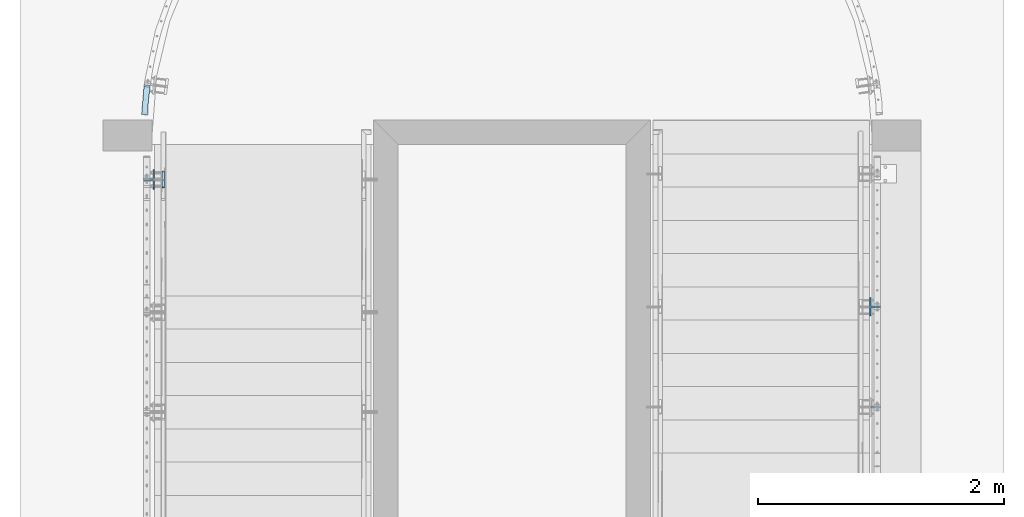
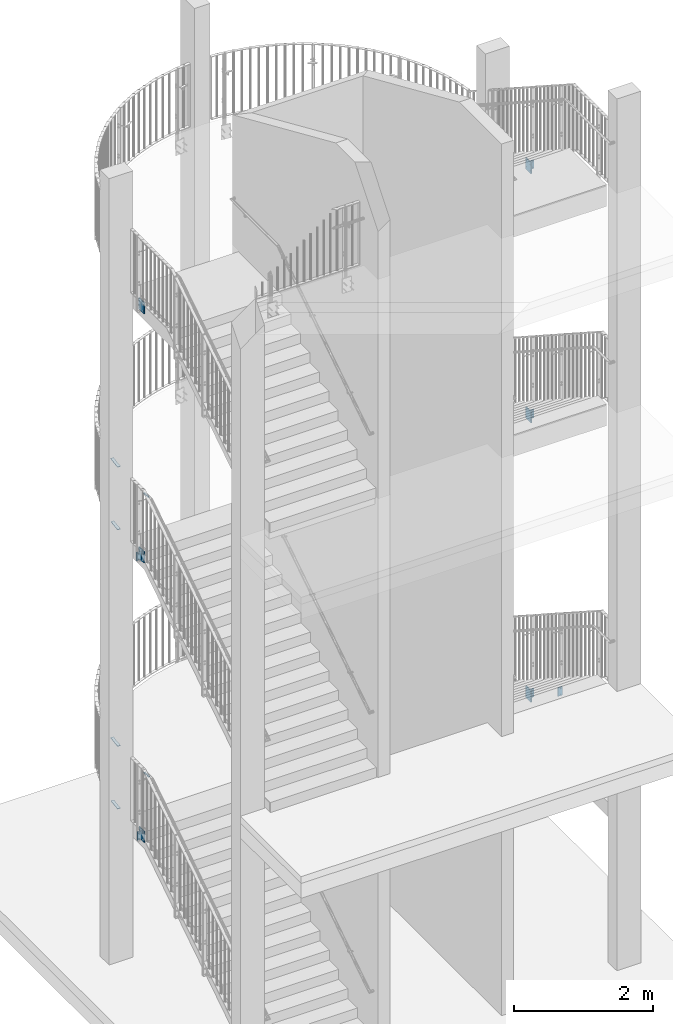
# One storey, part 111 of 296: 18 plates, 46 openings.
"""IFC2X3 building model written with IfcOpenShell, lengths in millimetres."""

from ifc_helpers import new_model, entity, si_unit, converted_unit, point, frame, frame_2d, origin, origin_with_axes, origin_2d_with_axis, place, context, project, spatial, polyline, circle_curve, line_curve, trimmed, segment, composite_curve, circle, outline, extrude, material, layer, layer_set, element, save


model = new_model("IFC2X3")

# Units and contexts
model_context = context("Model", 3, precision=1e-09, world=origin_with_axes())
ifc_project = project(units=[si_unit("LENGTHUNIT", "METRE", prefix="MILLI"), si_unit("AREAUNIT", "SQUARE_METRE"), si_unit("VOLUMEUNIT", "CUBIC_METRE"), converted_unit("PLANEANGLEUNIT", "DEGREE", entity("IfcPlaneAngleMeasure", 0.01745329), si_unit("PLANEANGLEUNIT", "RADIAN"), dimensions=[0, 0, 0, 0, 0, 0, 0])], contexts=[model_context])

# Site, building, storey
site_placement = place(None, origin_with_axes())
site = spatial("IfcSite", under=ifc_project, at=site_placement, Name="TZD-S?d | Treppenhausgel?nder", CompositionType="ELEMENT")
building_placement = place(site_placement, origin_with_axes())
building = spatial("IfcBuilding", under=site, at=building_placement, Name="Struktur 1", CompositionType="ELEMENT")
storey_placement = place(building_placement, origin_with_axes())
storey = spatial("IfcBuildingStorey", under=building, at=storey_placement, Name="Default Storey", CompositionType="ELEMENT", Elevation=0.0)

# Plate, openings
ifc_material = material(Name="S235JR")
ifc_layer_1 = layer(ifc_material, 15.0)
ifc_layer_set_1 = layer_set([ifc_layer_1], Name="S235JR")
plate_1_placement = place(None, frame((5829.999, -1520.0, 12614.999), z_axis=(-1.0, 0.0, 0.0), x_axis=(0.0, -1.0, 0.0)))
plate_1 = element("IfcPlate", 1, at=plate_1_placement, inside=storey, material=ifc_layer_set_1, Name="Girder", ObjectType="Girder", context=model_context, shape_type="SweptSolid", body=[
    extrude(outline(polyline([(-75.0, -100.0), (75.0, -100.0), (75.0, 100.0), (-75.0, 100.0), (-75.0, -100.0)])), origin_with_axes(), (0.0, 0.0, -1.0), 15.0),
])
opening_1_placement = place(plate_1_placement, frame((47.999, 55.0, 0.5), z_axis=(0.0, 0.0, 1.0), x_axis=(1.0, 0.0, 0.0)))
element("IfcOpeningElement", 2, at=opening_1_placement, cuts=plate_1, ObjectType="Opening", context=model_context, shape_type="SweptSolid", body=[
    extrude(circle(Radius=7.001, at=frame_2d((7.001, 0.0), x_axis=(1.0, 0.0))), origin(), (0.0, 0.0, -1.0), 16.0),
])
opening_2_placement = place(plate_1_placement, frame((-62.001, 55.0, 0.5), z_axis=(0.0, 0.0, 1.0), x_axis=(1.0, 0.0, 0.0)))
element("IfcOpeningElement", 3, at=opening_2_placement, cuts=plate_1, ObjectType="Opening", context=model_context, shape_type="SweptSolid", body=[
    extrude(circle(Radius=7.001, at=frame_2d((7.001, 0.0), x_axis=(1.0, 0.0))), origin(), (0.0, 0.0, -1.0), 16.0),
])
opening_3_placement = place(plate_1_placement, frame((47.999, -55.0, 0.5), z_axis=(0.0, 0.0, 1.0), x_axis=(1.0, 0.0, 0.0)))
element("IfcOpeningElement", 4, at=opening_3_placement, cuts=plate_1, ObjectType="Opening", context=model_context, shape_type="SweptSolid", body=[
    extrude(circle(Radius=7.001, at=frame_2d((7.001, 0.0), x_axis=(1.0, 0.0))), origin(), (0.0, 0.0, -1.0), 16.0),
])
opening_4_placement = place(plate_1_placement, frame((-62.001, -55.0, 0.5), z_axis=(0.0, 0.0, 1.0), x_axis=(1.0, 0.0, 0.0)))
element("IfcOpeningElement", 5, at=opening_4_placement, cuts=plate_1, ObjectType="Opening", context=model_context, shape_type="SweptSolid", body=[
    extrude(circle(Radius=7.001, at=frame_2d((7.001, 0.0), x_axis=(1.0, 0.0))), origin(), (0.0, 0.0, -1.0), 16.0),
])

plate_2_placement = place(None, frame((5882.499, -1512.5, 12614.999), z_axis=(0.0, 1.0, 0.0), x_axis=(-1.0, 0.0, 0.0)))
plate_2 = element("IfcPlate", 6, at=plate_2_placement, inside=storey, material=ifc_layer_set_1, Name="Girder", ObjectType="Girder", context=model_context, shape_type="SweptSolid", body=[
    extrude(outline(polyline([(-37.5, -75.0), (37.5, -75.0), (37.5, 75.0), (-37.5, 75.0), (-37.5, -75.0)])), origin_with_axes(), (0.0, 0.0, -1.0), 15.0),
])
opening_5_placement = place(plate_2_placement, frame((-19.501, 50.0, 0.5), z_axis=(0.0, 0.0, 1.0), x_axis=(1.0, 0.0, 0.0)))
element("IfcOpeningElement", 7, at=opening_5_placement, cuts=plate_2, ObjectType="Opening", context=model_context, shape_type="SweptSolid", body=[
    extrude(circle(Radius=7.001, at=frame_2d((7.001, 0.0), x_axis=(1.0, 0.0))), origin(), (0.0, 0.0, -1.0), 16.0),
])
opening_6_placement = place(plate_2_placement, frame((-19.501, -50.0, 0.5), z_axis=(0.0, 0.0, 1.0), x_axis=(1.0, 0.0, 0.0)))
element("IfcOpeningElement", 8, at=opening_6_placement, cuts=plate_2, ObjectType="Opening", context=model_context, shape_type="SweptSolid", body=[
    extrude(circle(Radius=7.001, at=frame_2d((7.001, 0.0), x_axis=(1.0, 0.0))), origin(), (0.0, 0.0, -1.0), 16.0),
])

plate_3_placement = place(None, frame((5829.999, -1520.0, 8239.999), z_axis=(-1.0, 0.0, 0.0), x_axis=(0.0, -1.0, 0.0)))
plate_3 = element("IfcPlate", 9, at=plate_3_placement, inside=storey, material=ifc_layer_set_1, Name="Girder", ObjectType="Girder", context=model_context, shape_type="SweptSolid", body=[
    extrude(outline(polyline([(-75.0, -100.0), (75.0, -100.0), (75.0, 100.0), (-75.0, 100.0), (-75.0, -100.0)])), origin_with_axes(), (0.0, 0.0, -1.0), 15.0),
])
opening_7_placement = place(plate_3_placement, frame((47.999, 55.0, 0.5), z_axis=(0.0, 0.0, 1.0), x_axis=(1.0, 0.0, 0.0)))
element("IfcOpeningElement", 10, at=opening_7_placement, cuts=plate_3, ObjectType="Opening", context=model_context, shape_type="SweptSolid", body=[
    extrude(circle(Radius=7.001, at=frame_2d((7.001, 0.0), x_axis=(1.0, 0.0))), origin(), (0.0, 0.0, -1.0), 16.0),
])
opening_8_placement = place(plate_3_placement, frame((-62.001, 55.0, 0.5), z_axis=(0.0, 0.0, 1.0), x_axis=(1.0, 0.0, 0.0)))
element("IfcOpeningElement", 11, at=opening_8_placement, cuts=plate_3, ObjectType="Opening", context=model_context, shape_type="SweptSolid", body=[
    extrude(circle(Radius=7.001, at=frame_2d((7.001, 0.0), x_axis=(1.0, 0.0))), origin(), (0.0, 0.0, -1.0), 16.0),
])
opening_9_placement = place(plate_3_placement, frame((47.999, -55.0, 0.5), z_axis=(0.0, 0.0, 1.0), x_axis=(1.0, 0.0, 0.0)))
element("IfcOpeningElement", 12, at=opening_9_placement, cuts=plate_3, ObjectType="Opening", context=model_context, shape_type="SweptSolid", body=[
    extrude(circle(Radius=7.001, at=frame_2d((7.001, 0.0), x_axis=(1.0, 0.0))), origin(), (0.0, 0.0, -1.0), 16.0),
])
opening_10_placement = place(plate_3_placement, frame((-62.001, -55.0, 0.5), z_axis=(0.0, 0.0, 1.0), x_axis=(1.0, 0.0, 0.0)))
element("IfcOpeningElement", 13, at=opening_10_placement, cuts=plate_3, ObjectType="Opening", context=model_context, shape_type="SweptSolid", body=[
    extrude(circle(Radius=7.001, at=frame_2d((7.001, 0.0), x_axis=(1.0, 0.0))), origin(), (0.0, 0.0, -1.0), 16.0),
])

plate_4_placement = place(None, frame((5882.499, -1512.5, 8239.999), z_axis=(0.0, 1.0, 0.0), x_axis=(-1.0, 0.0, 0.0)))
plate_4 = element("IfcPlate", 14, at=plate_4_placement, inside=storey, material=ifc_layer_set_1, Name="Girder", ObjectType="Girder", context=model_context, shape_type="SweptSolid", body=[
    extrude(outline(polyline([(-37.5, -75.0), (37.5, -75.0), (37.5, 75.0), (-37.5, 75.0), (-37.5, -75.0)])), origin_with_axes(), (0.0, 0.0, -1.0), 15.0),
])
opening_11_placement = place(plate_4_placement, frame((-19.501, 50.0, 0.5), z_axis=(0.0, 0.0, 1.0), x_axis=(1.0, 0.0, 0.0)))
element("IfcOpeningElement", 15, at=opening_11_placement, cuts=plate_4, ObjectType="Opening", context=model_context, shape_type="SweptSolid", body=[
    extrude(circle(Radius=7.001, at=frame_2d((7.001, 0.0), x_axis=(1.0, 0.0))), origin(), (0.0, 0.0, -1.0), 16.0),
])
opening_12_placement = place(plate_4_placement, frame((-19.501, -50.0, 0.5), z_axis=(0.0, 0.0, 1.0), x_axis=(1.0, 0.0, 0.0)))
element("IfcOpeningElement", 16, at=opening_12_placement, cuts=plate_4, ObjectType="Opening", context=model_context, shape_type="SweptSolid", body=[
    extrude(circle(Radius=7.001, at=frame_2d((7.001, 0.0), x_axis=(1.0, 0.0))), origin(), (0.0, 0.0, -1.0), 16.0),
])

plate_5_placement = place(None, frame((5882.499, -2327.5, 3864.997), z_axis=(0.0, 1.0, 0.0), x_axis=(-1.0, 0.0, 0.0)))
plate_5 = element("IfcPlate", 17, at=plate_5_placement, inside=storey, material=ifc_layer_set_1, Name="Girder", ObjectType="Girder", context=model_context, shape_type="SweptSolid", body=[
    extrude(outline(polyline([(-37.5, -75.0), (37.5, -75.0), (37.5, 75.0), (-37.5, 75.0), (-37.5, -75.0)])), origin_with_axes(), (0.0, 0.0, -1.0), 15.0),
])
opening_13_placement = place(plate_5_placement, frame((-19.501, 50.0, 0.5), z_axis=(0.0, 0.0, 1.0), x_axis=(1.0, 0.0, 0.0)))
element("IfcOpeningElement", 18, at=opening_13_placement, cuts=plate_5, ObjectType="Opening", context=model_context, shape_type="SweptSolid", body=[
    extrude(circle(Radius=7.001, at=frame_2d((7.001, 0.0), x_axis=(1.0, 0.0))), origin(), (0.0, 0.0, -1.0), 16.0),
])
opening_14_placement = place(plate_5_placement, frame((-19.501, -50.0, 0.5), z_axis=(0.0, 0.0, 1.0), x_axis=(1.0, 0.0, 0.0)))
element("IfcOpeningElement", 19, at=opening_14_placement, cuts=plate_5, ObjectType="Opening", context=model_context, shape_type="SweptSolid", body=[
    extrude(circle(Radius=7.001, at=frame_2d((7.001, 0.0), x_axis=(1.0, 0.0))), origin(), (0.0, 0.0, -1.0), 16.0),
])

plate_6_placement = place(None, frame((5829.999, -1520.0, 3339.997), z_axis=(-1.0, 0.0, 0.0), x_axis=(0.0, -1.0, 0.0)))
plate_6 = element("IfcPlate", 20, at=plate_6_placement, inside=storey, material=ifc_layer_set_1, Name="Girder", ObjectType="Girder", context=model_context, shape_type="SweptSolid", body=[
    extrude(outline(polyline([(-75.0, -100.0), (75.0, -100.0), (75.0, 100.0), (-75.0, 100.0), (-75.0, -100.0)])), origin_with_axes(), (0.0, 0.0, -1.0), 15.0),
])
opening_15_placement = place(plate_6_placement, frame((47.999, 55.0, 0.5), z_axis=(0.0, 0.0, 1.0), x_axis=(1.0, 0.0, 0.0)))
element("IfcOpeningElement", 21, at=opening_15_placement, cuts=plate_6, ObjectType="Opening", context=model_context, shape_type="SweptSolid", body=[
    extrude(circle(Radius=7.001, at=frame_2d((7.001, 0.0), x_axis=(1.0, 0.0))), origin(), (0.0, 0.0, -1.0), 16.0),
])
opening_16_placement = place(plate_6_placement, frame((-62.001, 55.0, 0.5), z_axis=(0.0, 0.0, 1.0), x_axis=(1.0, 0.0, 0.0)))
element("IfcOpeningElement", 22, at=opening_16_placement, cuts=plate_6, ObjectType="Opening", context=model_context, shape_type="SweptSolid", body=[
    extrude(circle(Radius=7.001, at=frame_2d((7.001, 0.0), x_axis=(1.0, 0.0))), origin(), (0.0, 0.0, -1.0), 16.0),
])
opening_17_placement = place(plate_6_placement, frame((47.999, -55.0, 0.5), z_axis=(0.0, 0.0, 1.0), x_axis=(1.0, 0.0, 0.0)))
element("IfcOpeningElement", 23, at=opening_17_placement, cuts=plate_6, ObjectType="Opening", context=model_context, shape_type="SweptSolid", body=[
    extrude(circle(Radius=7.001, at=frame_2d((7.001, 0.0), x_axis=(1.0, 0.0))), origin(), (0.0, 0.0, -1.0), 16.0),
])
opening_18_placement = place(plate_6_placement, frame((-62.001, -55.0, 0.5), z_axis=(0.0, 0.0, 1.0), x_axis=(1.0, 0.0, 0.0)))
element("IfcOpeningElement", 24, at=opening_18_placement, cuts=plate_6, ObjectType="Opening", context=model_context, shape_type="SweptSolid", body=[
    extrude(circle(Radius=7.001, at=frame_2d((7.001, 0.0), x_axis=(1.0, 0.0))), origin(), (0.0, 0.0, -1.0), 16.0),
])

plate_7_placement = place(None, frame((5882.499, -1512.5, 3339.997), z_axis=(0.0, 1.0, 0.0), x_axis=(-1.0, 0.0, 0.0)))
plate_7 = element("IfcPlate", 25, at=plate_7_placement, inside=storey, material=ifc_layer_set_1, Name="Girder", ObjectType="Girder", context=model_context, shape_type="SweptSolid", body=[
    extrude(outline(polyline([(-37.5, -75.0), (37.5, -75.0), (37.5, 75.0), (-37.5, 75.0), (-37.5, -75.0)])), origin_with_axes(), (0.0, 0.0, -1.0), 15.0),
])
opening_19_placement = place(plate_7_placement, frame((-19.501, 50.0, 0.5), z_axis=(0.0, 0.0, 1.0), x_axis=(1.0, 0.0, 0.0)))
element("IfcOpeningElement", 26, at=opening_19_placement, cuts=plate_7, ObjectType="Opening", context=model_context, shape_type="SweptSolid", body=[
    extrude(circle(Radius=7.001, at=frame_2d((7.001, 0.0), x_axis=(1.0, 0.0))), origin(), (0.0, 0.0, -1.0), 16.0),
])
opening_20_placement = place(plate_7_placement, frame((-19.501, -50.0, 0.5), z_axis=(0.0, 0.0, 1.0), x_axis=(1.0, 0.0, 0.0)))
element("IfcOpeningElement", 27, at=opening_20_placement, cuts=plate_7, ObjectType="Opening", context=model_context, shape_type="SweptSolid", body=[
    extrude(circle(Radius=7.001, at=frame_2d((7.001, 0.0), x_axis=(1.0, 0.0))), origin(), (0.0, 0.0, -1.0), 16.0),
])

ifc_layer_2 = layer(ifc_material, 10.0)
ifc_layer_set_2 = layer_set([ifc_layer_2], Name="S235JR")
plate_8_placement = place(None, frame((-65.175954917, 286.099415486, 8450.0), z_axis=(0.0, 0.0, -1.0), x_axis=(0.991444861, -0.130526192, 0.0)))
plate_8 = element("IfcPlate", 28, at=plate_8_placement, inside=storey, material=ifc_layer_set_2, Name="Girder", ObjectType="Girder", context=model_context, shape_type="SweptSolid", body=[
    extrude(outline(polyline([(0.0, 0.0), (50.000157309, 0.0), (50.301720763, 119.217704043), (60.173956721, 238.026335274), (10.345681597, 242.166745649), (0.301721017, 121.291473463), (0.0, 0.0)])), origin_with_axes(), (0.0, 0.0, 1.0), 10.0),
])
opening_21_placement = place(plate_8_placement, origin_with_axes())
element("IfcOpeningElement", 29, at=opening_21_placement, cuts=plate_8, ObjectType="Opening", context=model_context, shape_type="SweptSolid", body=[
    extrude(outline(composite_curve([segment(trimmed(line_curve((50.301720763, 119.217704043), (0.082808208, 0.996565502), 119.218085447), [point((50.301720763, 119.217704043))], [point((60.173956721, 238.026335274))], True, "CARTESIAN"), True, "CONTINUOUS"), segment(trimmed(circle_curve(frame_2d((3014.990671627, -7.5), x_axis=(1.0, 0.0)), 2965.0), [point((60.173956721, 238.026335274))], [point((50.000157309, 0.0))], True, "CARTESIAN"), True, "CONTINUOUS"), segment(trimmed(line_curve((50.000157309, 0.0), (0.002529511, 0.999996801), 119.218085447), [point((50.000157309, 0.0))], [point((50.301720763, 119.217704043))], True, "CARTESIAN"), True, "CONTINUOUS")], self_intersect=False)), origin(), (0.0, 0.0, 1.0), 10.0),
])
opening_22_placement = place(plate_8_placement, frame((0.0, 0.0, -0.01), z_axis=(0.0, 0.0, 1.0), x_axis=(1.0, 0.0, 0.0)))
element("IfcOpeningElement", 30, at=opening_22_placement, cuts=plate_8, ObjectType="Opening", context=model_context, shape_type="SweptSolid", body=[
    extrude(outline(composite_curve([segment(trimmed(line_curve((0.301721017, 121.291473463), (-0.002487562, -0.999996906), 121.291848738), [point((0.301721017, 121.291473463))], [point((0.0, 0.0))], True, "CARTESIAN"), True, "CONTINUOUS"), segment(trimmed(circle_curve(frame_2d((3014.990671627, -7.5), x_axis=(-1.0, 0.0)), 3015.0), [point((0.0, 0.0))], [point((10.345681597, 242.166745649))], False, "CARTESIAN"), True, "CONTINUOUS"), segment(trimmed(line_curve((10.345681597, 242.166745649), (-0.082808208, -0.996565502), 121.291848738), [point((10.345681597, 242.166745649))], [point((0.301721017, 121.291473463))], True, "CARTESIAN"), True, "CONTINUOUS")], self_intersect=False)), origin(), (0.0, 0.0, 1.0), 10.02),
])

plate_9_placement = place(None, frame((-17.486211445, 264.69150724, 7340.0), z_axis=(0.0, 0.0, 1.0), x_axis=(-0.991444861, 0.130526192, 0.0)))
plate_9 = element("IfcPlate", 31, at=plate_9_placement, inside=storey, material=ifc_layer_set_2, Name="-", ObjectType="-", context=model_context, shape_type="SweptSolid", body=[
    extrude(outline(polyline([(0.0, 0.0), (50.001415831, 0.0), (49.15230877, 113.777177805), (39.730362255, 227.166745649), (-10.09791287, 223.026335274), (-0.847689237, 111.70338746), (0.0, 0.0)])), origin_with_axes(), (0.0, 0.0, 1.0), 10.0),
])
opening_23_placement = place(plate_9_placement, frame((0.0, 0.0, -0.01), z_axis=(0.0, 0.0, 1.0), x_axis=(1.0, 0.0, 0.0)))
element("IfcOpeningElement", 32, at=opening_23_placement, cuts=plate_9, ObjectType="Opening", context=model_context, shape_type="SweptSolid", body=[
    extrude(outline(composite_curve([segment(trimmed(line_curve((49.15230877, 113.777177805), (-0.082808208, 0.996565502), 113.780346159), [point((49.15230877, 113.777177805))], [point((39.730362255, 227.166745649))], True, "CARTESIAN"), True, "CONTINUOUS"), segment(trimmed(circle_curve(frame_2d((-2964.914627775, -22.5), x_axis=(-1.0, 0.0)), 3014.999999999), [point((39.730362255, 227.166745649))], [point((50.001415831, 0.0))], False, "CARTESIAN"), True, "CONTINUOUS"), segment(trimmed(line_curve((50.001415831, 0.0), (-0.007462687, 0.999972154), 113.780346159), [point((50.001415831, 0.0))], [point((49.15230877, 113.777177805))], True, "CARTESIAN"), True, "CONTINUOUS")], self_intersect=False)), origin(), (0.0, 0.0, 1.0), 10.02),
])
opening_24_placement = place(plate_9_placement, origin_with_axes())
element("IfcOpeningElement", 33, at=opening_24_placement, cuts=plate_9, ObjectType="Opening", context=model_context, shape_type="SweptSolid", body=[
    extrude(outline(composite_curve([segment(trimmed(line_curve((-0.847689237, 111.70338746), (0.007588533, -0.999971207), 111.706603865), [point((-0.847689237, 111.70338746))], [point((0.0, 0.0))], True, "CARTESIAN"), True, "CONTINUOUS"), segment(trimmed(circle_curve(frame_2d((-2964.914627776, -22.5), x_axis=(1.0, 0.0)), 2965.0), [point((0.0, 0.0))], [point((-10.09791287, 223.026335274))], True, "CARTESIAN"), True, "CONTINUOUS"), segment(trimmed(line_curve((-10.09791287, 223.026335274), (0.082808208, -0.996565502), 111.706603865), [point((-10.09791287, 223.026335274))], [point((-0.847689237, 111.70338746))], True, "CARTESIAN"), True, "CONTINUOUS")], self_intersect=False)), origin(), (0.0, 0.0, 1.0), 10.0),
])

plate_10_placement = place(None, frame((-65.175954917, 286.099415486, 3550.0), z_axis=(0.0, 0.0, -1.0), x_axis=(0.991444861, -0.130526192, 0.0)))
plate_10 = element("IfcPlate", 34, at=plate_10_placement, inside=storey, material=ifc_layer_set_2, Name="Girder", ObjectType="Girder", context=model_context, shape_type="SweptSolid", body=[
    extrude(outline(polyline([(0.0, 0.0), (50.000157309, 0.0), (50.301720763, 119.217704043), (60.173956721, 238.026335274), (10.345681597, 242.166745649), (0.301721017, 121.291473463), (0.0, 0.0)])), origin_with_axes(), (0.0, 0.0, 1.0), 10.0),
])
opening_25_placement = place(plate_10_placement, origin_with_axes())
element("IfcOpeningElement", 35, at=opening_25_placement, cuts=plate_10, ObjectType="Opening", context=model_context, shape_type="SweptSolid", body=[
    extrude(outline(composite_curve([segment(trimmed(line_curve((50.301720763, 119.217704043), (0.082808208, 0.996565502), 119.218085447), [point((50.301720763, 119.217704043))], [point((60.173956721, 238.026335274))], True, "CARTESIAN"), True, "CONTINUOUS"), segment(trimmed(circle_curve(frame_2d((3014.990671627, -7.5), x_axis=(1.0, 0.0)), 2965.0), [point((60.173956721, 238.026335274))], [point((50.000157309, 0.0))], True, "CARTESIAN"), True, "CONTINUOUS"), segment(trimmed(line_curve((50.000157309, 0.0), (0.002529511, 0.999996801), 119.218085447), [point((50.000157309, 0.0))], [point((50.301720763, 119.217704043))], True, "CARTESIAN"), True, "CONTINUOUS")], self_intersect=False)), origin(), (0.0, 0.0, 1.0), 10.0),
])
opening_26_placement = place(plate_10_placement, frame((0.0, 0.0, -0.01), z_axis=(0.0, 0.0, 1.0), x_axis=(1.0, 0.0, 0.0)))
element("IfcOpeningElement", 36, at=opening_26_placement, cuts=plate_10, ObjectType="Opening", context=model_context, shape_type="SweptSolid", body=[
    extrude(outline(composite_curve([segment(trimmed(line_curve((0.301721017, 121.291473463), (-0.002487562, -0.999996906), 121.291848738), [point((0.301721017, 121.291473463))], [point((0.0, 0.0))], True, "CARTESIAN"), True, "CONTINUOUS"), segment(trimmed(circle_curve(frame_2d((3014.990671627, -7.5), x_axis=(-1.0, 0.0)), 3015.0), [point((0.0, 0.0))], [point((10.345681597, 242.166745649))], False, "CARTESIAN"), True, "CONTINUOUS"), segment(trimmed(line_curve((10.345681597, 242.166745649), (-0.082808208, -0.996565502), 121.291848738), [point((10.345681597, 242.166745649))], [point((0.301721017, 121.291473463))], True, "CARTESIAN"), True, "CONTINUOUS")], self_intersect=False)), origin(), (0.0, 0.0, 1.0), 10.02),
])

plate_11_placement = place(None, frame((-17.486211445, 264.69150724, 2440.0), z_axis=(0.0, 0.0, 1.0), x_axis=(-0.991444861, 0.130526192, 0.0)))
plate_11 = element("IfcPlate", 37, at=plate_11_placement, inside=storey, material=ifc_layer_set_2, Name="-", ObjectType="-", context=model_context, shape_type="SweptSolid", body=[
    extrude(outline(polyline([(0.0, 0.0), (50.001415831, 0.0), (49.15230877, 113.777177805), (39.730362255, 227.166745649), (-10.09791287, 223.026335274), (-0.847689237, 111.70338746), (0.0, 0.0)])), origin_with_axes(), (0.0, 0.0, 1.0), 10.0),
])
opening_27_placement = place(plate_11_placement, frame((0.0, 0.0, -0.01), z_axis=(0.0, 0.0, 1.0), x_axis=(1.0, 0.0, 0.0)))
element("IfcOpeningElement", 38, at=opening_27_placement, cuts=plate_11, ObjectType="Opening", context=model_context, shape_type="SweptSolid", body=[
    extrude(outline(composite_curve([segment(trimmed(line_curve((49.15230877, 113.777177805), (-0.082808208, 0.996565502), 113.780346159), [point((49.15230877, 113.777177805))], [point((39.730362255, 227.166745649))], True, "CARTESIAN"), True, "CONTINUOUS"), segment(trimmed(circle_curve(frame_2d((-2964.914627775, -22.5), x_axis=(-1.0, 0.0)), 3014.999999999), [point((39.730362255, 227.166745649))], [point((50.001415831, 0.0))], False, "CARTESIAN"), True, "CONTINUOUS"), segment(trimmed(line_curve((50.001415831, 0.0), (-0.007462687, 0.999972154), 113.780346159), [point((50.001415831, 0.0))], [point((49.15230877, 113.777177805))], True, "CARTESIAN"), True, "CONTINUOUS")], self_intersect=False)), origin(), (0.0, 0.0, 1.0), 10.02),
])
opening_28_placement = place(plate_11_placement, origin_with_axes())
element("IfcOpeningElement", 39, at=opening_28_placement, cuts=plate_11, ObjectType="Opening", context=model_context, shape_type="SweptSolid", body=[
    extrude(outline(composite_curve([segment(trimmed(line_curve((-0.847689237, 111.70338746), (0.007588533, -0.999971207), 111.706603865), [point((-0.847689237, 111.70338746))], [point((0.0, 0.0))], True, "CARTESIAN"), True, "CONTINUOUS"), segment(trimmed(circle_curve(frame_2d((-2964.914627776, -22.5), x_axis=(1.0, 0.0)), 2965.0), [point((0.0, 0.0))], [point((-10.09791287, 223.026335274))], True, "CARTESIAN"), True, "CONTINUOUS"), segment(trimmed(line_curve((-10.09791287, 223.026335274), (0.082808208, -0.996565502), 111.706603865), [point((-10.09791287, 223.026335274))], [point((-0.847689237, 111.70338746))], True, "CARTESIAN"), True, "CONTINUOUS")], self_intersect=False)), origin(), (0.0, 0.0, 1.0), 10.0),
])

plate_12_placement = place(None, frame((20.0, -480.0, 7190.0), z_axis=(-1.0, 0.0, 0.0), x_axis=(0.0, -1.0, 0.0)))
plate_12 = element("IfcPlate", 40, at=plate_12_placement, inside=storey, material=ifc_layer_set_1, Name="Girder", ObjectType="Girder", context=model_context, shape_type="SweptSolid", body=[
    extrude(outline(polyline([(-75.0, -100.0), (75.0, -100.0), (75.0, 100.0), (-75.0, 100.0), (-75.0, -100.0)])), origin_with_axes(), (0.0, 0.0, 1.0), 15.0),
])
opening_29_placement = place(plate_12_placement, frame((0.0, 0.0, -0.5), z_axis=(0.0, 0.0, 1.0), x_axis=(1.0, 0.0, 0.0)))
element("IfcOpeningElement", 41, at=opening_29_placement, cuts=plate_12, ObjectType="Opening", context=model_context, shape_type="SweptSolid", body=[
    extrude(circle(Radius=7.001, at=frame_2d((55.0, 55.0), x_axis=(1.0, 0.0))), origin(), (0.0, 0.0, 1.0), 16.0),
])
opening_30_placement = place(plate_12_placement, frame((0.0, 0.0, -0.5), z_axis=(0.0, 0.0, 1.0), x_axis=(1.0, 0.0, 0.0)))
element("IfcOpeningElement", 42, at=opening_30_placement, cuts=plate_12, ObjectType="Opening", context=model_context, shape_type="SweptSolid", body=[
    extrude(circle(Radius=7.001, at=frame_2d((-55.0, 55.0), x_axis=(1.0, 0.0))), origin(), (0.0, 0.0, 1.0), 16.0),
])
opening_31_placement = place(plate_12_placement, frame((0.0, 0.0, -0.5), z_axis=(0.0, 0.0, 1.0), x_axis=(1.0, 0.0, 0.0)))
element("IfcOpeningElement", 43, at=opening_31_placement, cuts=plate_12, ObjectType="Opening", context=model_context, shape_type="SweptSolid", body=[
    extrude(circle(Radius=7.001, at=frame_2d((55.0, -55.0), x_axis=(1.0, 0.0))), origin(), (0.0, 0.0, 1.0), 16.0),
])
opening_32_placement = place(plate_12_placement, frame((0.0, 0.0, -0.5), z_axis=(0.0, 0.0, 1.0), x_axis=(1.0, 0.0, 0.0)))
element("IfcOpeningElement", 44, at=opening_32_placement, cuts=plate_12, ObjectType="Opening", context=model_context, shape_type="SweptSolid", body=[
    extrude(circle(Radius=7.001, at=frame_2d((-55.0, -55.0), x_axis=(1.0, 0.0))), origin(), (0.0, 0.0, 1.0), 16.0),
])

plate_13_placement = place(None, frame((-32.5, -472.5, 7190.0), z_axis=(0.0, -1.0, 0.0), x_axis=(1.0, 0.0, 0.0)))
plate_13 = element("IfcPlate", 45, at=plate_13_placement, inside=storey, material=ifc_layer_set_1, Name="Girder", ObjectType="Girder", context=model_context, shape_type="SweptSolid", body=[
    extrude(outline(polyline([(-37.5, -75.0), (37.5, -75.0), (37.5, 75.0), (-37.5, 75.0), (-37.5, -75.0)])), origin_with_axes(), (0.0, 0.0, 1.0), 15.0),
])
opening_33_placement = place(plate_13_placement, frame((-12.5, 0.0, -0.5), z_axis=(0.0, 0.0, 1.0), x_axis=(1.0, 0.0, 0.0)))
element("IfcOpeningElement", 46, at=opening_33_placement, cuts=plate_13, ObjectType="Opening", context=model_context, shape_type="SweptSolid", body=[
    extrude(circle(Radius=7.001, at=frame_2d((0.0, 50.0), x_axis=(1.0, 0.0))), origin(), (0.0, 0.0, 1.0), 16.0),
])
opening_34_placement = place(plate_13_placement, frame((-12.5, 0.0, -0.5), z_axis=(0.0, 0.0, 1.0), x_axis=(1.0, 0.0, 0.0)))
element("IfcOpeningElement", 47, at=opening_34_placement, cuts=plate_13, ObjectType="Opening", context=model_context, shape_type="SweptSolid", body=[
    extrude(circle(Radius=7.001, at=frame_2d((0.0, -50.0), x_axis=(1.0, 0.0))), origin(), (0.0, 0.0, 1.0), 16.0),
])

# Plate, opening
plate_14_placement = place(None, frame((90.0, -480.0, 8209.999), z_axis=(0.0, 0.0, 1.0), x_axis=(0.0, -1.0, 0.0)))
plate_14 = element("IfcPlate", 48, at=plate_14_placement, inside=storey, material=ifc_layer_set_2, Name="Girder", ObjectType="Girder", context=model_context, shape_type="SweptSolid", body=[
    extrude(outline(polyline([(-65.0, -10.0), (65.0, -10.0), (65.0, 10.0), (-65.0, 10.0), (-65.0, -10.0)])), origin_with_axes(), (0.0, 0.0, 1.0), 10.0),
])
opening_35_placement = place(plate_14_placement, frame((1e-09, 0.0, -0.5), z_axis=(0.0, 0.0, 1.0), x_axis=(0.0, 1.0, 0.0)))
element("IfcOpeningElement", 49, at=opening_35_placement, cuts=plate_14, ObjectType="Opening", context=model_context, shape_type="SweptSolid", body=[
    extrude(circle(Radius=5.001, at=origin_2d_with_axis()), origin(), (0.0, 0.0, 1.0), 11.0),
])

# Plate, openings
plate_15_placement = place(None, frame((20.0, -490.0, 2289.999), z_axis=(-1.0, 0.0, 0.0), x_axis=(0.0, -1.0, 0.0)))
plate_15 = element("IfcPlate", 50, at=plate_15_placement, inside=storey, material=ifc_layer_set_1, Name="Girder", ObjectType="Girder", context=model_context, shape_type="SweptSolid", body=[
    extrude(outline(polyline([(-75.0, -100.0), (75.0, -100.0), (75.0, 100.0), (-75.0, 100.0), (-75.0, -100.0)])), origin_with_axes(), (0.0, 0.0, 1.0), 15.0),
])
opening_36_placement = place(plate_15_placement, frame((0.0, 0.0, -0.5), z_axis=(0.0, 0.0, 1.0), x_axis=(1.0, 0.0, 0.0)))
element("IfcOpeningElement", 51, at=opening_36_placement, cuts=plate_15, ObjectType="Opening", context=model_context, shape_type="SweptSolid", body=[
    extrude(circle(Radius=7.001, at=frame_2d((55.0, 55.0), x_axis=(1.0, 0.0))), origin(), (0.0, 0.0, 1.0), 16.0),
])
opening_37_placement = place(plate_15_placement, frame((0.0, 0.0, -0.5), z_axis=(0.0, 0.0, 1.0), x_axis=(1.0, 0.0, 0.0)))
element("IfcOpeningElement", 52, at=opening_37_placement, cuts=plate_15, ObjectType="Opening", context=model_context, shape_type="SweptSolid", body=[
    extrude(circle(Radius=7.001, at=frame_2d((-55.0, 55.0), x_axis=(1.0, 0.0))), origin(), (0.0, 0.0, 1.0), 16.0),
])
opening_38_placement = place(plate_15_placement, frame((0.0, 0.0, -0.5), z_axis=(0.0, 0.0, 1.0), x_axis=(1.0, 0.0, 0.0)))
element("IfcOpeningElement", 53, at=opening_38_placement, cuts=plate_15, ObjectType="Opening", context=model_context, shape_type="SweptSolid", body=[
    extrude(circle(Radius=7.001, at=frame_2d((55.0, -55.0), x_axis=(1.0, 0.0))), origin(), (0.0, 0.0, 1.0), 16.0),
])
opening_39_placement = place(plate_15_placement, frame((0.0, 0.0, -0.5), z_axis=(0.0, 0.0, 1.0), x_axis=(1.0, 0.0, 0.0)))
element("IfcOpeningElement", 54, at=opening_39_placement, cuts=plate_15, ObjectType="Opening", context=model_context, shape_type="SweptSolid", body=[
    extrude(circle(Radius=7.001, at=frame_2d((-55.0, -55.0), x_axis=(1.0, 0.0))), origin(), (0.0, 0.0, 1.0), 16.0),
])

plate_16_placement = place(None, frame((-32.5, -482.5, 2289.999), z_axis=(0.0, -1.0, 0.0), x_axis=(1.0, 0.0, 0.0)))
plate_16 = element("IfcPlate", 55, at=plate_16_placement, inside=storey, material=ifc_layer_set_1, Name="Girder", ObjectType="Girder", context=model_context, shape_type="SweptSolid", body=[
    extrude(outline(polyline([(-37.5, -75.0), (37.5, -75.0), (37.5, 75.0), (-37.5, 75.0), (-37.5, -75.0)])), origin_with_axes(), (0.0, 0.0, 1.0), 15.0),
])
opening_40_placement = place(plate_16_placement, frame((-12.5, 0.0, -0.5), z_axis=(0.0, 0.0, 1.0), x_axis=(1.0, 0.0, 0.0)))
element("IfcOpeningElement", 56, at=opening_40_placement, cuts=plate_16, ObjectType="Opening", context=model_context, shape_type="SweptSolid", body=[
    extrude(circle(Radius=7.001, at=frame_2d((0.0, 50.0), x_axis=(1.0, 0.0))), origin(), (0.0, 0.0, 1.0), 16.0),
])
opening_41_placement = place(plate_16_placement, frame((-12.5, 0.0, -0.5), z_axis=(0.0, 0.0, 1.0), x_axis=(1.0, 0.0, 0.0)))
element("IfcOpeningElement", 57, at=opening_41_placement, cuts=plate_16, ObjectType="Opening", context=model_context, shape_type="SweptSolid", body=[
    extrude(circle(Radius=7.001, at=frame_2d((0.0, -50.0), x_axis=(1.0, 0.0))), origin(), (0.0, 0.0, 1.0), 16.0),
])

# Plate, opening
plate_17_placement = place(None, frame((90.0, -490.0, 3309.998), z_axis=(0.0, 0.0, 1.0), x_axis=(0.0, -1.0, 0.0)))
plate_17 = element("IfcPlate", 58, at=plate_17_placement, inside=storey, material=ifc_layer_set_2, Name="Girder", ObjectType="Girder", context=model_context, shape_type="SweptSolid", body=[
    extrude(outline(polyline([(-65.0, -10.0), (65.0, -10.0), (65.0, 10.0), (-65.0, 10.0), (-65.0, -10.0)])), origin_with_axes(), (0.0, 0.0, 1.0), 10.0),
])
opening_42_placement = place(plate_17_placement, frame((0.0, 0.0, -0.5), z_axis=(0.0, 0.0, 1.0), x_axis=(0.0, 1.0, 0.0)))
element("IfcOpeningElement", 59, at=opening_42_placement, cuts=plate_17, ObjectType="Opening", context=model_context, shape_type="SweptSolid", body=[
    extrude(circle(Radius=5.001, at=origin_2d_with_axis()), origin(), (0.0, 0.0, 1.0), 11.0),
])

# Plate, openings
plate_18_placement = place(None, frame((20.0, -480.0, 11565.001), z_axis=(-1.0, 0.0, 0.0), x_axis=(0.0, -1.0, 0.0)))
plate_18 = element("IfcPlate", 60, at=plate_18_placement, inside=storey, material=ifc_layer_set_1, Name="Girder", ObjectType="Girder", context=model_context, shape_type="SweptSolid", body=[
    extrude(outline(polyline([(-75.0, -100.0), (75.0, -100.0), (75.0, 100.0), (-75.0, 100.0), (-75.0, -100.0)])), origin_with_axes(), (0.0, 0.0, 1.0), 15.0),
])
opening_43_placement = place(plate_18_placement, frame((0.0, 0.0, -0.5), z_axis=(0.0, 0.0, 1.0), x_axis=(1.0, 0.0, 0.0)))
element("IfcOpeningElement", 61, at=opening_43_placement, cuts=plate_18, ObjectType="Opening", context=model_context, shape_type="SweptSolid", body=[
    extrude(circle(Radius=7.001, at=frame_2d((55.0, 55.0), x_axis=(1.0, 0.0))), origin(), (0.0, 0.0, 1.0), 16.0),
])
opening_44_placement = place(plate_18_placement, frame((0.0, 0.0, -0.5), z_axis=(0.0, 0.0, 1.0), x_axis=(1.0, 0.0, 0.0)))
element("IfcOpeningElement", 62, at=opening_44_placement, cuts=plate_18, ObjectType="Opening", context=model_context, shape_type="SweptSolid", body=[
    extrude(circle(Radius=7.001, at=frame_2d((-55.0, 55.0), x_axis=(1.0, 0.0))), origin(), (0.0, 0.0, 1.0), 16.0),
])
opening_45_placement = place(plate_18_placement, frame((0.0, 0.0, -0.5), z_axis=(0.0, 0.0, 1.0), x_axis=(1.0, 0.0, 0.0)))
element("IfcOpeningElement", 63, at=opening_45_placement, cuts=plate_18, ObjectType="Opening", context=model_context, shape_type="SweptSolid", body=[
    extrude(circle(Radius=7.001, at=frame_2d((55.0, -55.0), x_axis=(1.0, 0.0))), origin(), (0.0, 0.0, 1.0), 16.0),
])
opening_46_placement = place(plate_18_placement, frame((0.0, 0.0, -0.5), z_axis=(0.0, 0.0, 1.0), x_axis=(1.0, 0.0, 0.0)))
element("IfcOpeningElement", 64, at=opening_46_placement, cuts=plate_18, ObjectType="Opening", context=model_context, shape_type="SweptSolid", body=[
    extrude(circle(Radius=7.001, at=frame_2d((-55.0, -55.0), x_axis=(1.0, 0.0))), origin(), (0.0, 0.0, 1.0), 16.0),
])

save(model, "model.ifc")
